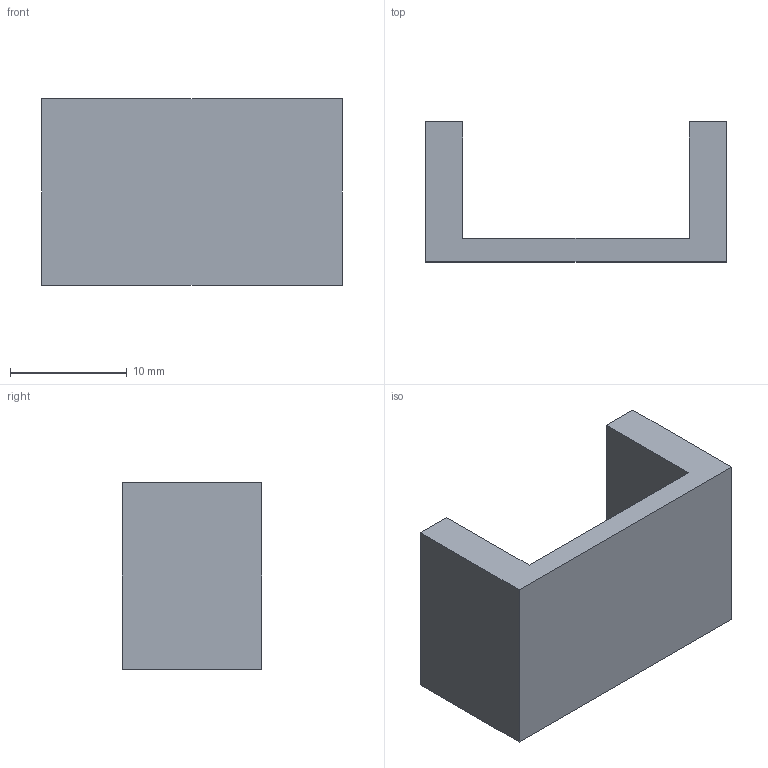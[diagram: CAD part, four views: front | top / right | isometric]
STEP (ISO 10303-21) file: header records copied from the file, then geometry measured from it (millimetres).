
FILE_DESCRIPTION(('Open CASCADE Model'),'2;1');
FILE_NAME('Open CASCADE Shape Model','2026-09-11T00:16:42',('Author'),( 'Open CASCADE'),'Open CASCADE STEP processor 7.9','Open CASCADE 7.9' ,'Unknown');
FILE_SCHEMA(('AUTOMOTIVE_DESIGN { 1 0 10303 214 1 1 1 1 }'));
Length unit declared in the file: millimetre
Products named in the file (1): Open CASCADE STEP translator 7.9 26
Bounding box: 25.8 x 12 x 16 mm (x, y, z)
Volume: 1849.6 mm3; surface area: 1760.8 mm2
Topology: 1 solids, 1 shells, 10 faces, 24 edges, 16 vertices
Faces by surface type: plane 10
Entity records: 610 total; most frequent: CARTESIAN_POINT 99, DIRECTION 94, LINE 72, VECTOR 72, ORIENTED_EDGE 48, PCURVE 48, DEFINITIONAL_REPRESENTATION 48, EDGE_CURVE 24
